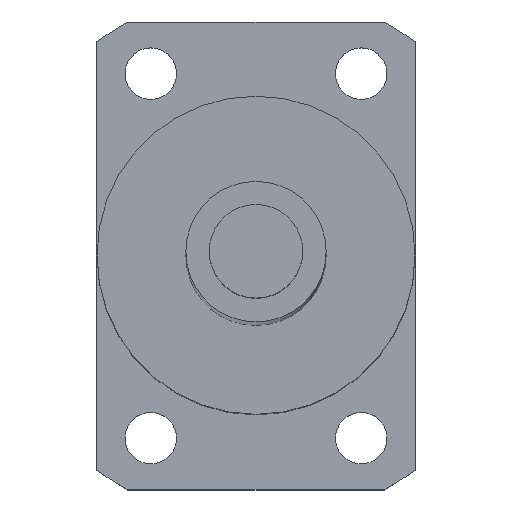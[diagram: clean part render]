
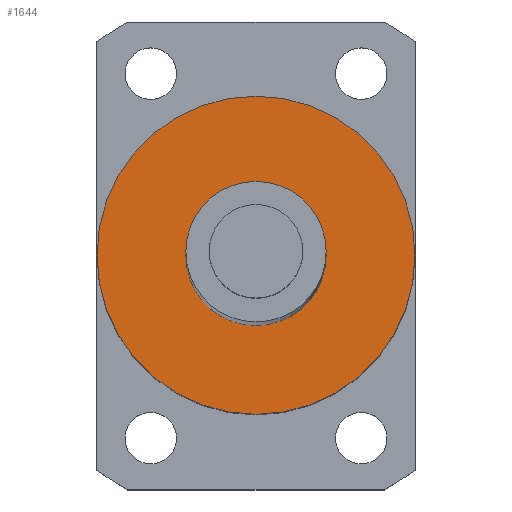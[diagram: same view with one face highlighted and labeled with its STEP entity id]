
A CAD part, top view. The second image highlights one B-rep face of the part: STEP entity #1644.
In plain terms, the highlighted planar face has unit normal (0, 0, 1).
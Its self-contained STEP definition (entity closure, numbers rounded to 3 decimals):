
#512=CARTESIAN_POINT('',(0.,0.,332.5));
#513=DIRECTION('',(0.,0.,1.));
#514=DIRECTION('',(1.,0.,0.));
#515=AXIS2_PLACEMENT_3D('',#512,#513,#514);
#517=CARTESIAN_POINT('',(0.,0.,332.5));
#518=DIRECTION('',(0.,0.,1.));
#519=DIRECTION('',(-1.,0.,0.));
#520=AXIS2_PLACEMENT_3D('',#517,#518,#519);
#522=CARTESIAN_POINT('',(0.,0.,332.5));
#523=DIRECTION('',(0.,0.,1.));
#524=DIRECTION('',(1.,0.,0.));
#525=AXIS2_PLACEMENT_3D('',#522,#523,#524);
#527=CARTESIAN_POINT('',(0.,0.,332.5));
#528=DIRECTION('',(0.,0.,1.));
#529=DIRECTION('',(-1.,0.,0.));
#530=AXIS2_PLACEMENT_3D('',#527,#528,#529);
#757=CARTESIAN_POINT('',(17.,0.,332.5));
#758=CARTESIAN_POINT('',(-17.,0.,332.5));
#759=VERTEX_POINT('',#757);
#760=VERTEX_POINT('',#758);
#769=CARTESIAN_POINT('',(7.5,0.,332.5));
#770=CARTESIAN_POINT('',(-7.5,0.,332.5));
#771=VERTEX_POINT('',#769);
#772=VERTEX_POINT('',#770);
#1629=CARTESIAN_POINT('',(0.,0.,332.5));
#1630=DIRECTION('',(0.,0.,1.));
#1631=DIRECTION('',(1.,0.,0.));
#1632=AXIS2_PLACEMENT_3D('',#1629,#1630,#1631);
#1633=PLANE('',#1632);
#1634=ORIENTED_EDGE('',*,*,#1609,.F.);
#1635=ORIENTED_EDGE('',*,*,#1623,.F.);
#1636=EDGE_LOOP('',(#1634,#1635));
#1637=FACE_OUTER_BOUND('',#1636,.F.);
#1639=ORIENTED_EDGE('',*,*,#1638,.T.);
#1641=ORIENTED_EDGE('',*,*,#1640,.T.);
#1642=EDGE_LOOP('',(#1639,#1641));
#1643=FACE_BOUND('',#1642,.F.);
#1644=ADVANCED_FACE('',(#1637,#1643),#1633,.T.);
#516=CIRCLE('',#515,17.);
#521=CIRCLE('',#520,17.);
#526=CIRCLE('',#525,7.5);
#531=CIRCLE('',#530,7.5);
#1609=EDGE_CURVE('',#759,#760,#516,.T.);
#1623=EDGE_CURVE('',#760,#759,#521,.T.);
#1638=EDGE_CURVE('',#771,#772,#526,.T.);
#1640=EDGE_CURVE('',#772,#771,#531,.T.);
